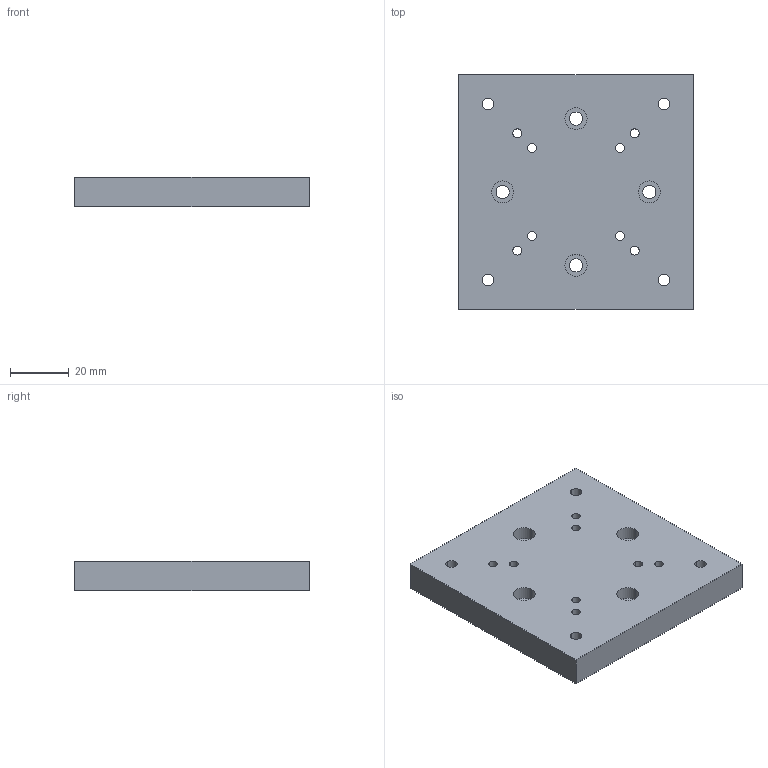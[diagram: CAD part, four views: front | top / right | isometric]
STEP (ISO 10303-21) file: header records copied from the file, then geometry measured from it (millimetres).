
FILE_DESCRIPTION( (''), '2;1');
FILE_NAME ('SPT-08.stp','2020-07-22T08:47:06',(''),(''),'spGate 15.6.6','','');
FILE_SCHEMA (('AUTOMOTIVE_DESIGN'));
Length unit declared in the file: millimetre
Products named in the file (2): Assembly; SPT-08-prt0
Assembly tree (1 placements, depth 2):
  Assembly
    SPT-08-prt0
Bounding box: 80 x 80 x 10 mm (x, y, z)
Volume: 61786.7 mm3; surface area: 17650.9 mm2
Topology: 1 solids, 1 shells, 50 faces, 132 edges, 88 vertices
Faces by surface type: cylinder 40, plane 10
Entity records: 2688 total; most frequent: CARTESIAN_POINT 314, DIRECTION 280, ORIENTED_EDGE 264, COLOUR_RGB 183, PRESENTATION_STYLE_ASSIGNMENT 183, STYLED_ITEM 183, AXIS2_PLACEMENT_3D 134, EDGE_CURVE 132
